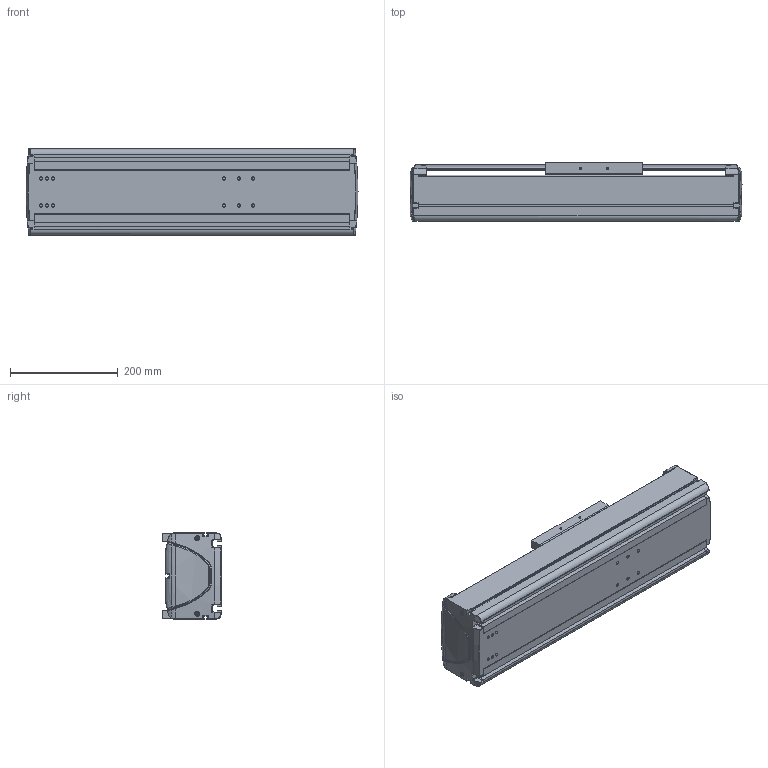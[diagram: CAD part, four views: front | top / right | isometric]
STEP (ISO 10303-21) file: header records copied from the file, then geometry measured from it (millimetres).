
FILE_DESCRIPTION((''),'2;1');
FILE_NAME('BE50G-ST-M_B-20_IGS_PRT','2017-06-18T',(' '),(''),'PRO/ENGINEER BY PARAMETRIC TECHNOLOGY CORPORATION, 2015030','PRO/ENGINEER BY PARAMETRIC TECHNOLOGY CORPORATION, 2015030','');
FILE_SCHEMA(('CONFIG_CONTROL_DESIGN'));
Length unit declared in the file: millimetre
Products named in the file (1): BE50G-ST-M_B-20_IGS_PRT
Bounding box: 614.98 x 110 x 160 mm (x, y, z)
Volume: 3102918.8 mm3; surface area: 1013084.9 mm2
Topology: 2 solids, 61 shells, 1478 faces, 3820 edges, 2431 vertices
Faces by surface type: plane 599, cylinder 592, bspline 114, torus 87, cone 46, sphere 40
Entity records: 50538 total; most frequent: CARTESIAN_POINT 14761, DIRECTION 7370, ORIENTED_EDGE 7368, EDGE_CURVE 3802, AXIS2_PLACEMENT_3D 2718, VERTEX_POINT 2431, VECTOR 1934, LINE 1934
